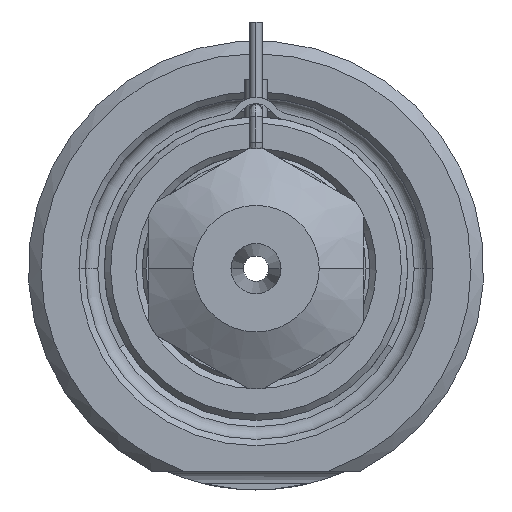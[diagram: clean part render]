
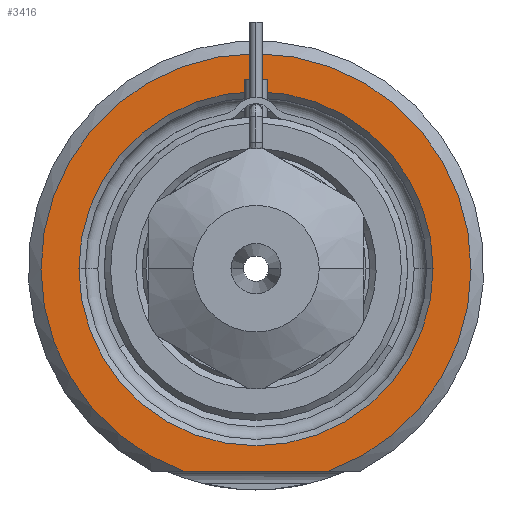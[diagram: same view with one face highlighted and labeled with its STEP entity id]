
A CAD part, front view. The second image highlights one B-rep face of the part: STEP entity #3416.
In plain terms, the highlighted planar face has unit normal (0, -1, 0).
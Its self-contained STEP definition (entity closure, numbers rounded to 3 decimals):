
#702=DIRECTION('',(1.,0.,0.));
#703=VECTOR('',#702,11.489);
#704=CARTESIAN_POINT('',(-5.745,0.,-16.));
#705=LINE('',#704,#703);
#706=CARTESIAN_POINT('',(0.,0.,0.));
#707=DIRECTION('',(0.,1.,0.));
#708=DIRECTION('',(-1.,0.,0.));
#709=AXIS2_PLACEMENT_3D('',#706,#707,#708);
#711=CARTESIAN_POINT('',(0.,0.,0.));
#712=DIRECTION('',(0.,1.,0.));
#713=DIRECTION('',(1.,0.,0.));
#714=AXIS2_PLACEMENT_3D('',#711,#712,#713);
#818=CARTESIAN_POINT('',(0.,0.,0.));
#819=DIRECTION('',(0.,-1.,0.));
#820=DIRECTION('',(0.338,0.,-0.941));
#821=AXIS2_PLACEMENT_3D('',#818,#819,#820);
#2199=CARTESIAN_POINT('',(-14.,0.,0.));
#2200=CARTESIAN_POINT('',(14.,0.,0.));
#2201=VERTEX_POINT('',#2199);
#2202=VERTEX_POINT('',#2200);
#2239=CARTESIAN_POINT('',(-5.745,0.,-16.));
#2240=CARTESIAN_POINT('',(5.745,0.,-16.));
#2241=VERTEX_POINT('',#2239);
#2242=VERTEX_POINT('',#2240);
#3400=CARTESIAN_POINT('',(0.,0.,0.));
#3401=DIRECTION('',(0.,-1.,0.));
#3402=DIRECTION('',(1.,0.,0.));
#3403=AXIS2_PLACEMENT_3D('',#3400,#3401,#3402);
#3404=PLANE('',#3403);
#3406=ORIENTED_EDGE('',*,*,#3405,.F.);
#3408=ORIENTED_EDGE('',*,*,#3407,.F.);
#3409=EDGE_LOOP('',(#3406,#3408));
#3410=FACE_OUTER_BOUND('',#3409,.F.);
#3412=ORIENTED_EDGE('',*,*,#3411,.F.);
#3413=ORIENTED_EDGE('',*,*,#3390,.F.);
#3414=EDGE_LOOP('',(#3412,#3413));
#3415=FACE_BOUND('',#3414,.F.);
#3416=ADVANCED_FACE('',(#3410,#3415),#3404,.T.);
#710=CIRCLE('',#709,14.);
#715=CIRCLE('',#714,14.);
#822=CIRCLE('',#821,17.);
#3390=EDGE_CURVE('',#2202,#2201,#715,.T.);
#3405=EDGE_CURVE('',#2241,#2242,#705,.T.);
#3407=EDGE_CURVE('',#2242,#2241,#822,.T.);
#3411=EDGE_CURVE('',#2201,#2202,#710,.T.);
